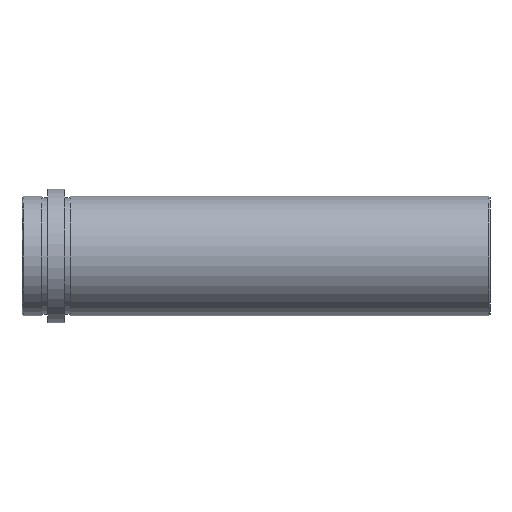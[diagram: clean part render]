
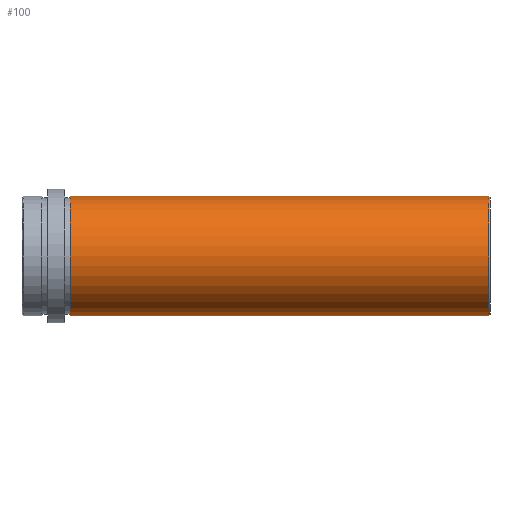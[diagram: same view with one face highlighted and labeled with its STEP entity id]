
A CAD part, front view. The second image highlights one B-rep face of the part: STEP entity #100.
In plain terms, the highlighted face is a revolution surface.
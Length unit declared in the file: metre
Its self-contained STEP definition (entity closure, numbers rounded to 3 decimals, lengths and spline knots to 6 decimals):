
#100 = ADVANCED_FACE( '', ( #157 ), #158, .F. );
#157 = FACE_OUTER_BOUND( '', #250, .T. );
#158 = SURFACE_OF_REVOLUTION( '', #251, #252 );
#250 = EDGE_LOOP( '', ( #419, #420, #421, #422 ) );
#251 = B_SPLINE_CURVE_WITH_KNOTS( '', 1, ( #423, #424 ), .UNSPECIFIED., .F., .F., ( 2, 2 ), ( -10000., 10000. ), .UNSPECIFIED. );
#252 = AXIS1_PLACEMENT( '', #425, #426 );
#419 = ORIENTED_EDGE( '', *, *, #492, .T. );
#420 = ORIENTED_EDGE( '', *, *, #490, .T. );
#421 = ORIENTED_EDGE( '', *, *, #445, .F. );
#422 = ORIENTED_EDGE( '', *, *, #489, .T. );
#423 = CARTESIAN_POINT( '', ( 10000.1645, 0., 0.021 ) );
#424 = CARTESIAN_POINT( '', ( -9999.8355, 0., 0.021 ) );
#425 = CARTESIAN_POINT( '', ( 0., 0., 0. ) );
#426 = DIRECTION( '', ( 1., 0., 0. ) );
#445 = EDGE_CURVE( '', #499, #500, #501, .T. );
#489 = EDGE_CURVE( '', #499, #571, #572, .F. );
#490 = EDGE_CURVE( '', #573, #500, #574, .T. );
#492 = EDGE_CURVE( '', #571, #573, #576, .T. );
#499 = VERTEX_POINT( '', #583 );
#500 = VERTEX_POINT( '', #584 );
#501 = CIRCLE( '', #585, 0.021 );
#571 = VERTEX_POINT( '', #671 );
#572 = LINE( '', #672, #673 );
#573 = VERTEX_POINT( '', #674 );
#574 = LINE( '', #675, #676 );
#576 = CIRCLE( '', #678, 0.021 );
#583 = CARTESIAN_POINT( '', ( 0.017, 0., -0.021 ) );
#584 = CARTESIAN_POINT( '', ( 0.017, 0., 0.021 ) );
#585 = AXIS2_PLACEMENT_3D( '', #689, #690, #691 );
#671 = CARTESIAN_POINT( '', ( 0.1645, 0., -0.021 ) );
#672 = CARTESIAN_POINT( '', ( 0.1645, 0., -0.021 ) );
#673 = VECTOR( '', #789, 1. );
#674 = CARTESIAN_POINT( '', ( 0.1645, 0., 0.021 ) );
#675 = CARTESIAN_POINT( '', ( 0.1645, 0., 0.021 ) );
#676 = VECTOR( '', #790, 1. );
#678 = AXIS2_PLACEMENT_3D( '', #794, #795, #796 );
#689 = CARTESIAN_POINT( '', ( 0.017, 0., 0. ) );
#690 = DIRECTION( '', ( -1., 0., 0. ) );
#691 = DIRECTION( '', ( 0., 0., 1. ) );
#789 = DIRECTION( '', ( -1., 0., 0. ) );
#790 = DIRECTION( '', ( -1., 0., 0. ) );
#794 = CARTESIAN_POINT( '', ( 0.1645, 0., 0. ) );
#795 = DIRECTION( '', ( -1., 0., 0. ) );
#796 = DIRECTION( '', ( 0., 0., 1. ) );
